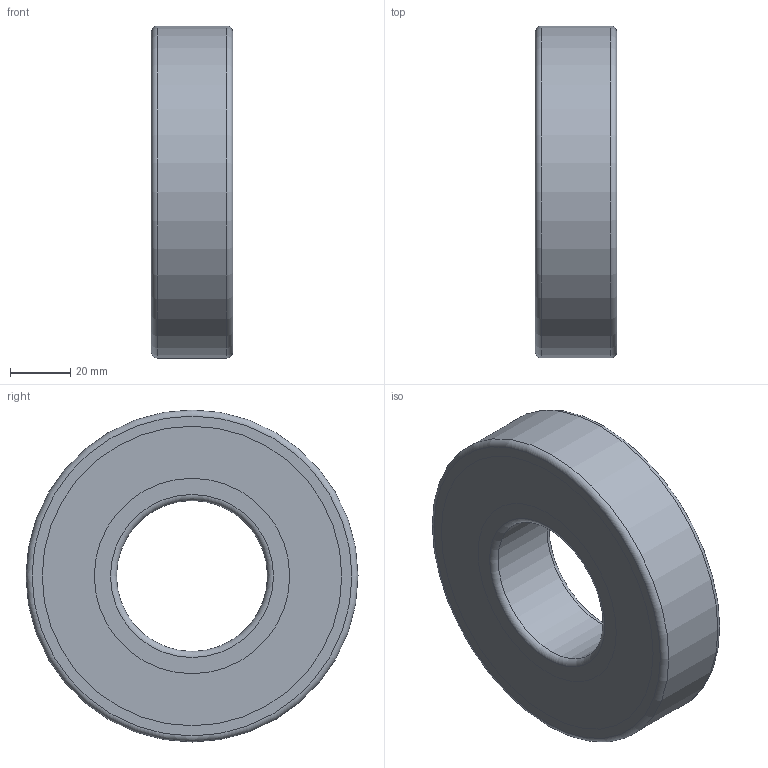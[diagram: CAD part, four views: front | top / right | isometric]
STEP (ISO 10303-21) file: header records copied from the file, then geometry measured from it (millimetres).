
FILE_DESCRIPTION(/* description */ (''),/* implementation_level */ '2;1');
FILE_NAME(/* name */ 'D:\moje\parametrické\63--\rada63---2RSR,ZR\63---2RSR\6310-2RSR.stp',/* time_stamp */ '2016-04-04T13:53:37+02:00',/* author */ ('OUBALASKO'),/* organization */ (''),/* preprocessor_version */ 'ST-DEVELOPER v15.2',/* originating_system */ 'Autodesk Inventor 2014',/* authorisation */ '');
FILE_SCHEMA (('AUTOMOTIVE_DESIGN { 1 0 10303 214 3 1 1 }'));
Length unit declared in the file: millimetre
Products named in the file (6): 6310-02-2RSR; 6310-ball; 6310-cage; 6310-01-2RSR; 6310-seal-2RSR,ZR; 6310-2RSR
Bounding box: 27 x 110 x 110 mm (x, y, z)
Volume: 143626.6 mm3; surface area: 72670.8 mm2
Topology: 14 solids, 14 shells, 104 faces, 366 edges, 240 vertices
Faces by surface type: plane 42, sphere 40, cylinder 16, torus 6
Full cylindrical faces by diameter (mm): 50 x1, 64.76 x4, 74.285 x2, 85.715 x2, 95.24 x2, 99.24 x4, 110 x1
Entity records: 2464 total; most frequent: CARTESIAN_POINT 962, DIRECTION 336, ORIENTED_EDGE 242, AXIS2_PLACEMENT_3D 168, EDGE_CURVE 121, VERTEX_POINT 90, CIRCLE 89, EDGE_LOOP 85
